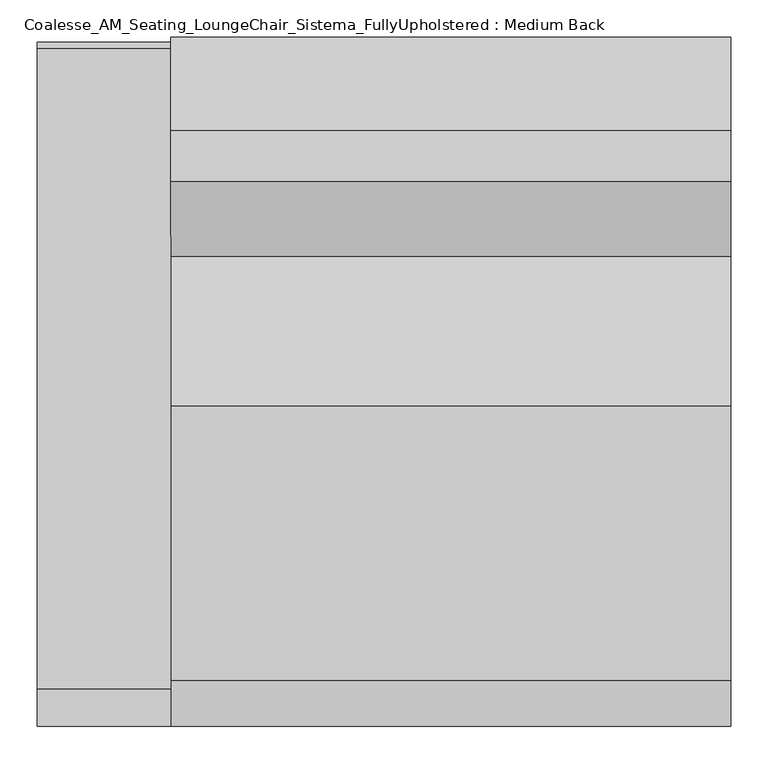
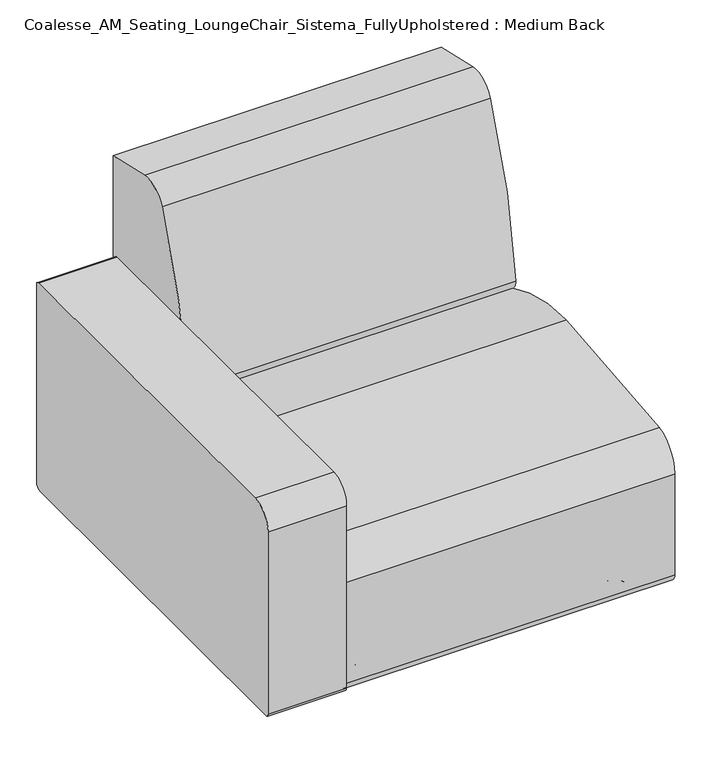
"""IFC4 building model written with IfcOpenShell, lengths in millimetres: furniture geometry, Coalesse_AM_Seating_LoungeChair_Sistema_FullyUpholstered : Medium Back."""

from ifc_helpers import new_model, si_unit, point, frame, frame_2d, origin, place, context, project, spatial, polyline, circle_curve, ellipse_curve, trimmed, segment, composite_curve, outline, extrude, source, transform, mapped, element, save
from ifc_brep_helpers import plane_surface, cylinder_surface, revolved_surface, advanced_brep


def coalesse_am_seating_loungechair_sistema_fullyupholstered_8c61c7ce(model_context):
    return source(origin(), model_context, "Body", "SolidModel", [
        advanced_brep(
        [(-437.0342435, 376.5697714, 32.0111214), (-473.307853, 376.5697714, 32.0111214), (-473.307853, 376.5697714, 16.5557542), (-437.0342435, 376.5697714, 16.5557542), (-474.6015336, 376.5697714, 14.0167632), (-435.740563, 376.5697714, 14.0167632), (-478.9735198, 376.5697714, 10.8824382), (-431.3685767, 376.5697714, 10.8824382), (-480.1597362, 376.5697714, 8.4680454), (-430.1823604, 376.5697714, 8.4680454), (-480.1597362, 376.5697714, 3.1081764), (-430.1823604, 376.5697714, 3.1081764), (-476.5633616, 376.5697714, 0.0), (-433.7787349, 376.5697714, 0.0), (-455.1710483, 376.5697714, 0.0), (-455.1710483, 376.5697714, 34.4679682), (-462.2858273, 376.5697714, 34.4679682), (-448.0562693, 376.5697714, 34.4679682), (-462.2858273, 376.5697714, 32.0111214), (-448.0562693, 376.5697714, 32.0111214)],
        [
            (0, 1, circle_curve(frame((-455.1710483, 376.5697714, 32.0111214), z_axis=(0.0, 0.0, -1.0), x_axis=(-1.0, 0.0, 0.0)), 18.1368048)),
            (1, 2),
            (2, 3, circle_curve(frame((-455.1710483, 376.5697714, 16.5557542), z_axis=(0.0, 0.0, 1.0), x_axis=(-1.0, 0.0, 0.0)), 18.1368048)),
            (3, 0),
            (1, 0, circle_curve(frame((-455.1710483, 376.5697714, 32.0111214), z_axis=(0.0, 0.0, -1.0), x_axis=(-1.0, 0.0, 0.0)), 18.1368048)),
            (3, 2, circle_curve(frame((-455.1710483, 376.5697714, 16.5557542), z_axis=(0.0, 0.0, 1.0), x_axis=(-1.0, 0.0, 0.0)), 18.1368048)),
            (2, 4),
            (4, 5, circle_curve(frame((-455.1710483, 376.5697714, 14.0167632), z_axis=(0.0, 0.0, 1.0), x_axis=(-1.0, 0.0, 0.0)), 19.4304853)),
            (5, 3),
            (5, 4, circle_curve(frame((-455.1710483, 376.5697714, 14.0167632), z_axis=(0.0, 0.0, 1.0), x_axis=(-1.0, 0.0, 0.0)), 19.4304853)),
            (4, 6, circle_curve(frame((-432.6195632, 376.5697714, -49.1591113), z_axis=(0.0, -1.0, 0.0), x_axis=(1.0, 0.0, 0.0)), 75.8529957)),
            (6, 7, circle_curve(frame((-455.1710483, 376.5697714, 10.8824382), z_axis=(0.0, 0.0, 1.0), x_axis=(-1.0, 0.0, 0.0)), 23.8024715)),
            (7, 5, circle_curve(frame((-477.7225333, 376.5697714, -49.1591113), z_axis=(0.0, -1.0, 0.0), x_axis=(-1.0, 0.0, 0.0)), 75.8529957)),
            (7, 6, circle_curve(frame((-455.1710483, 376.5697714, 10.8824382), z_axis=(0.0, 0.0, 1.0), x_axis=(-1.0, 0.0, 0.0)), 23.8024715)),
            (6, 8, circle_curve(frame((-477.109533, 376.5697714, 8.4680454), z_axis=(0.0, -1.0, 0.0), x_axis=(1.0, 0.0, 0.0)), 3.0502032)),
            (8, 9, circle_curve(frame((-455.1710483, 376.5697714, 8.4680454), z_axis=(0.0, 0.0, 1.0), x_axis=(-1.0, 0.0, 0.0)), 24.9886879)),
            (9, 7, circle_curve(frame((-433.2325636, 376.5697714, 8.4680454), z_axis=(0.0, -1.0, 0.0), x_axis=(-1.0, 0.0, 0.0)), 3.0502032)),
            (9, 8, circle_curve(frame((-455.1710483, 376.5697714, 8.4680454), z_axis=(0.0, 0.0, 1.0), x_axis=(-1.0, 0.0, 0.0)), 24.9886879)),
            (8, 10),
            (10, 11, circle_curve(frame((-455.1710483, 376.5697714, 3.1081764), z_axis=(0.0, 0.0, 1.0), x_axis=(-1.0, 0.0, 0.0)), 24.9886879)),
            (11, 9),
            (11, 10, circle_curve(frame((-455.1710483, 376.5697714, 3.1081764), z_axis=(0.0, 0.0, 1.0), x_axis=(-1.0, 0.0, 0.0)), 24.9886879)),
            (10, 12, circle_curve(frame((-476.5633616, 376.5697714, 3.634715), z_axis=(0.0, -1.0, 0.0), x_axis=(1.0, 0.0, 0.0)), 3.634715)),
            (12, 13, circle_curve(frame((-455.1710483, 376.5697714, 0.0), z_axis=(0.0, 0.0, 1.0), x_axis=(-1.0, 0.0, 0.0)), 21.3923133)),
            (13, 11, circle_curve(frame((-433.7787349, 376.5697714, 3.634715), z_axis=(0.0, -1.0, 0.0), x_axis=(-1.0, 0.0, 0.0)), 3.634715)),
            (13, 12, circle_curve(frame((-455.1710483, 376.5697714, 0.0), z_axis=(0.0, 0.0, 1.0), x_axis=(-1.0, 0.0, 0.0)), 21.3923133)),
            (12, 14),
            (14, 13),
            (15, 16),
            (16, 17, circle_curve(frame((-455.1710483, 376.5697714, 34.4679682), z_axis=(0.0, 0.0, 1.0), x_axis=(-1.0, 0.0, 0.0)), 7.114779)),
            (17, 15),
            (17, 16, circle_curve(frame((-455.1710483, 376.5697714, 34.4679682), z_axis=(0.0, 0.0, 1.0), x_axis=(-1.0, 0.0, 0.0)), 7.114779)),
            (16, 18),
            (18, 19, circle_curve(frame((-455.1710483, 376.5697714, 32.0111214), z_axis=(0.0, 0.0, 1.0), x_axis=(-1.0, 0.0, 0.0)), 7.114779)),
            (19, 17),
            (19, 18, circle_curve(frame((-455.1710483, 376.5697714, 32.0111214), z_axis=(0.0, 0.0, 1.0), x_axis=(-1.0, 0.0, 0.0)), 7.114779)),
            (18, 1),
            (0, 19),
        ],
        [
            cylinder_surface(frame((-455.1710483, 376.5697714, 22.0491407), z_axis=(0.0, 0.0, 1.0), x_axis=(-1.0, 0.0, 0.0)), 18.1368048),
            revolved_surface(polyline([(-474.6015336, 376.5697714, 14.0167632), (-473.307853, 376.5697714, 16.5557542)]), (-455.1710483, 376.5697714, 22.0491407), (0.0, 0.0, 1.0)),
            revolved_surface(trimmed(ellipse_curve(frame((-432.6195632, 376.5697714, -49.1591113), z_axis=(0.0, 1.0, 0.0), x_axis=(1.0, 0.0, 0.0)), 75.8529957, 75.8529957), [point((-478.9735198, 376.5697714, 10.8824382))], [point((-474.6015336, 376.5697714, 14.0167632))], True, "CARTESIAN"), (-455.1710483, 376.5697714, 22.0491407), (0.0, 0.0, 1.0)),
            revolved_surface(trimmed(ellipse_curve(frame((-477.109533, 376.5697714, 8.4680454), z_axis=(0.0, 1.0, 0.0), x_axis=(1.0, 0.0, 0.0)), 3.0502032, 3.0502032), [point((-480.1597362, 376.5697714, 8.4680454))], [point((-478.9735198, 376.5697714, 10.8824382))], True, "CARTESIAN"), (-455.1710483, 376.5697714, 22.0491407), (0.0, 0.0, 1.0)),
            cylinder_surface(frame((-455.1710483, 376.5697714, 22.0491407), z_axis=(0.0, 0.0, 1.0), x_axis=(-1.0, 0.0, 0.0)), 24.9886879),
            revolved_surface(trimmed(ellipse_curve(frame((-476.5633616, 376.5697714, 3.634715), z_axis=(0.0, 1.0, 0.0), x_axis=(1.0, 0.0, 0.0)), 3.634715, 3.634715), [point((-476.5633616, 376.5697714, 0.0))], [point((-480.1597362, 376.5697714, 3.1081764))], True, "CARTESIAN"), (-455.1710483, 376.5697714, 22.0491407), (0.0, 0.0, 1.0)),
            plane_surface(frame((-455.1710483, 376.5697714, 0.0), z_axis=(0.0, 0.0, -1.0), x_axis=(-1.0, 0.0, 0.0))),
            plane_surface(frame((-455.1710483, 376.5697714, 34.4679682), z_axis=(0.0, 0.0, 1.0), x_axis=(-1.0, 0.0, 0.0))),
            cylinder_surface(frame((-455.1710483, 376.5697714, 22.0491407), z_axis=(0.0, 0.0, 1.0), x_axis=(-1.0, 0.0, 0.0)), 7.114779),
            plane_surface(frame((-455.1710483, 376.5697714, 32.0111214), z_axis=(0.0, 0.0, 1.0), x_axis=(-1.0, 0.0, 0.0))),
        ],
        [
            (0, [[1, 2, 3, 4]]),
            (0, [[5, -4, 6, -2]]),
            (1, [[-3, 7, 8, 9]]),
            (1, [[-6, -9, 10, -7]]),
            (2, [[-8, 11, 12, 13]]),
            (2, [[-10, -13, 14, -11]]),
            (3, [[-12, 15, 16, 17]]),
            (3, [[-14, -17, 18, -15]]),
            (4, [[-16, 19, 20, 21]]),
            (4, [[-18, -21, 22, -19]]),
            (5, [[-20, 23, 24, 25]]),
            (5, [[-22, -25, 26, -23]]),
            (6, [[-24, 27, 28]]),
            (6, [[-26, -28, -27]]),
            (7, [[29, 30, 31]]),
            (7, [[-31, 32, -29]]),
            (8, [[-30, 33, 34, 35]]),
            (8, [[-32, -35, 36, -33]]),
            (9, [[-34, 37, -1, 38]]),
            (9, [[-36, -38, -5, -37]]),
        ],
    ),
        advanced_brep(
        [(-437.0342435, -359.8207817, 16.5557542), (-473.307853, -359.8207817, 16.5557542), (-473.307853, -359.8207817, 32.0111214), (-437.0342435, -359.8207817, 32.0111214), (-435.740563, -359.8207817, 14.0167632), (-474.6015336, -359.8207817, 14.0167632), (-431.3685767, -359.8207817, 10.8824382), (-478.9735198, -359.8207817, 10.8824382), (-430.1823604, -359.8207817, 8.4680454), (-480.1597362, -359.8207817, 8.4680454), (-430.1823604, -359.8207817, 3.1081764), (-480.1597362, -359.8207817, 3.1081764), (-433.7787349, -359.8207817, 0.0), (-476.5633616, -359.8207817, 0.0), (-455.1710483, -359.8207817, 0.0), (-448.0562693, -359.8207817, 34.4679682), (-462.2858273, -359.8207817, 34.4679682), (-455.1710483, -359.8207817, 34.4679682), (-448.0562693, -359.8207817, 32.0111214), (-462.2858273, -359.8207817, 32.0111214)],
        [
            (0, 1, circle_curve(frame((-455.1710483, -359.8207817, 16.5557542), z_axis=(0.0, 0.0, 1.0), x_axis=(-1.0, 0.0, 0.0)), 18.1368048)),
            (1, 2),
            (2, 3, circle_curve(frame((-455.1710483, -359.8207817, 32.0111214), z_axis=(0.0, 0.0, -1.0), x_axis=(-1.0, 0.0, 0.0)), 18.1368048)),
            (3, 0),
            (1, 0, circle_curve(frame((-455.1710483, -359.8207817, 16.5557542), z_axis=(0.0, 0.0, 1.0), x_axis=(-1.0, 0.0, 0.0)), 18.1368048)),
            (3, 2, circle_curve(frame((-455.1710483, -359.8207817, 32.0111214), z_axis=(0.0, 0.0, -1.0), x_axis=(-1.0, 0.0, 0.0)), 18.1368048)),
            (4, 5, circle_curve(frame((-455.1710483, -359.8207817, 14.0167632), z_axis=(0.0, 0.0, 1.0), x_axis=(-1.0, 0.0, 0.0)), 19.4304853)),
            (5, 1),
            (0, 4),
            (5, 4, circle_curve(frame((-455.1710483, -359.8207817, 14.0167632), z_axis=(0.0, 0.0, 1.0), x_axis=(-1.0, 0.0, 0.0)), 19.4304853)),
            (6, 7, circle_curve(frame((-455.1710483, -359.8207817, 10.8824382), z_axis=(0.0, 0.0, 1.0), x_axis=(-1.0, 0.0, 0.0)), 23.8024715)),
            (7, 5, circle_curve(frame((-432.6195632, -359.8207817, -49.1591113), z_axis=(0.0, 1.0, 0.0), x_axis=(1.0, 0.0, 0.0)), 75.8529957)),
            (4, 6, circle_curve(frame((-477.7225333, -359.8207817, -49.1591113), z_axis=(0.0, 1.0, 0.0), x_axis=(-1.0, 0.0, 0.0)), 75.8529957)),
            (7, 6, circle_curve(frame((-455.1710483, -359.8207817, 10.8824382), z_axis=(0.0, 0.0, 1.0), x_axis=(-1.0, 0.0, 0.0)), 23.8024715)),
            (8, 9, circle_curve(frame((-455.1710483, -359.8207817, 8.4680454), z_axis=(0.0, 0.0, 1.0), x_axis=(-1.0, 0.0, 0.0)), 24.9886879)),
            (9, 7, circle_curve(frame((-477.109533, -359.8207817, 8.4680454), z_axis=(0.0, 1.0, 0.0), x_axis=(1.0, 0.0, 0.0)), 3.0502032)),
            (6, 8, circle_curve(frame((-433.2325636, -359.8207817, 8.4680454), z_axis=(0.0, 1.0, 0.0), x_axis=(-1.0, 0.0, 0.0)), 3.0502032)),
            (9, 8, circle_curve(frame((-455.1710483, -359.8207817, 8.4680454), z_axis=(0.0, 0.0, 1.0), x_axis=(-1.0, 0.0, 0.0)), 24.9886879)),
            (10, 11, circle_curve(frame((-455.1710483, -359.8207817, 3.1081764), z_axis=(0.0, 0.0, 1.0), x_axis=(-1.0, 0.0, 0.0)), 24.9886879)),
            (11, 9),
            (8, 10),
            (11, 10, circle_curve(frame((-455.1710483, -359.8207817, 3.1081764), z_axis=(0.0, 0.0, 1.0), x_axis=(-1.0, 0.0, 0.0)), 24.9886879)),
            (12, 13, circle_curve(frame((-455.1710483, -359.8207817, 0.0), z_axis=(0.0, 0.0, 1.0), x_axis=(-1.0, 0.0, 0.0)), 21.3923133)),
            (13, 11, circle_curve(frame((-476.5633616, -359.8207817, 3.634715), z_axis=(0.0, 1.0, 0.0), x_axis=(1.0, 0.0, 0.0)), 3.634715)),
            (10, 12, circle_curve(frame((-433.7787349, -359.8207817, 3.634715), z_axis=(0.0, 1.0, 0.0), x_axis=(-1.0, 0.0, 0.0)), 3.634715)),
            (13, 12, circle_curve(frame((-455.1710483, -359.8207817, 0.0), z_axis=(0.0, 0.0, 1.0), x_axis=(-1.0, 0.0, 0.0)), 21.3923133)),
            (14, 13),
            (12, 14),
            (15, 16, circle_curve(frame((-455.1710483, -359.8207817, 34.4679682), z_axis=(0.0, 0.0, 1.0), x_axis=(-1.0, 0.0, 0.0)), 7.114779)),
            (16, 17),
            (17, 15),
            (16, 15, circle_curve(frame((-455.1710483, -359.8207817, 34.4679682), z_axis=(0.0, 0.0, 1.0), x_axis=(-1.0, 0.0, 0.0)), 7.114779)),
            (18, 19, circle_curve(frame((-455.1710483, -359.8207817, 32.0111214), z_axis=(0.0, 0.0, 1.0), x_axis=(-1.0, 0.0, 0.0)), 7.114779)),
            (19, 16),
            (15, 18),
            (19, 18, circle_curve(frame((-455.1710483, -359.8207817, 32.0111214), z_axis=(0.0, 0.0, 1.0), x_axis=(-1.0, 0.0, 0.0)), 7.114779)),
            (2, 19),
            (18, 3),
        ],
        [
            cylinder_surface(frame((-455.1710483, -359.8207817, 22.0491407), z_axis=(0.0, 0.0, -1.0), x_axis=(-1.0, 0.0, 0.0)), 18.1368048),
            revolved_surface(polyline([(-473.307853, -359.8207817, 16.5557542), (-474.6015336, -359.8207817, 14.0167632)]), (-455.1710483, -359.8207817, 22.0491407), (0.0, 0.0, -1.0)),
            revolved_surface(trimmed(ellipse_curve(frame((-432.6195632, -359.8207817, -49.1591113), z_axis=(0.0, -1.0, 0.0), x_axis=(1.0, 0.0, 0.0)), 75.8529957, 75.8529957), [point((-474.6015336, -359.8207817, 14.0167632))], [point((-478.9735198, -359.8207817, 10.8824382))], True, "CARTESIAN"), (-455.1710483, -359.8207817, 22.0491407), (0.0, 0.0, -1.0)),
            revolved_surface(trimmed(ellipse_curve(frame((-477.109533, -359.8207817, 8.4680454), z_axis=(0.0, -1.0, 0.0), x_axis=(1.0, 0.0, 0.0)), 3.0502032, 3.0502032), [point((-478.9735198, -359.8207817, 10.8824382))], [point((-480.1597362, -359.8207817, 8.4680454))], True, "CARTESIAN"), (-455.1710483, -359.8207817, 22.0491407), (0.0, 0.0, -1.0)),
            cylinder_surface(frame((-455.1710483, -359.8207817, 22.0491407), z_axis=(0.0, 0.0, -1.0), x_axis=(-1.0, 0.0, 0.0)), 24.9886879),
            revolved_surface(trimmed(ellipse_curve(frame((-476.5633616, -359.8207817, 3.634715), z_axis=(0.0, -1.0, 0.0), x_axis=(1.0, 0.0, 0.0)), 3.634715, 3.634715), [point((-480.1597362, -359.8207817, 3.1081764))], [point((-476.5633616, -359.8207817, 0.0))], True, "CARTESIAN"), (-455.1710483, -359.8207817, 22.0491407), (0.0, 0.0, -1.0)),
            plane_surface(frame((-455.1710483, -359.8207817, 0.0), z_axis=(0.0, 0.0, -1.0), x_axis=(-1.0, 0.0, 0.0))),
            plane_surface(frame((-455.1710483, -359.8207817, 34.4679682), z_axis=(0.0, 0.0, 1.0), x_axis=(-1.0, 0.0, 0.0))),
            cylinder_surface(frame((-455.1710483, -359.8207817, 22.0491407), z_axis=(0.0, 0.0, -1.0), x_axis=(-1.0, 0.0, 0.0)), 7.114779),
            plane_surface(frame((-455.1710483, -359.8207817, 32.0111214), z_axis=(0.0, 0.0, 1.0), x_axis=(-1.0, 0.0, 0.0))),
        ],
        [
            (0, [[1, 2, 3, 4]]),
            (0, [[5, -4, 6, -2]]),
            (1, [[7, 8, -1, 9]]),
            (1, [[10, -9, -5, -8]]),
            (2, [[11, 12, -7, 13]]),
            (2, [[14, -13, -10, -12]]),
            (3, [[15, 16, -11, 17]]),
            (3, [[18, -17, -14, -16]]),
            (4, [[19, 20, -15, 21]]),
            (4, [[22, -21, -18, -20]]),
            (5, [[23, 24, -19, 25]]),
            (5, [[26, -25, -22, -24]]),
            (6, [[27, -23, 28]]),
            (6, [[-28, -26, -27]]),
            (7, [[29, 30, 31]]),
            (7, [[32, -31, -30]]),
            (8, [[33, 34, -29, 35]]),
            (8, [[36, -35, -32, -34]]),
            (9, [[-3, 37, -33, 38]]),
            (9, [[-6, -38, -36, -37]]),
        ],
    ),
        extrude(outline(composite_curve([segment(polyline([(-461.2704381, 44.1353341), (-461.2704381, 487.0244726)]), True, "CONTINUOUS"), segment(trimmed(circle_curve(frame_2d((-410.4704381, 487.0244726)), 50.8), [point((-461.2704381, 487.0244726))], [point((-410.4704381, 537.8244726))], False, "CARTESIAN"), True, "CONTINUOUS"), segment(polyline([(-410.4704381, 537.8244726), (450.1139321, 537.8244726)]), True, "CONTINUOUS"), segment(trimmed(circle_curve(frame_2d((450.1139321, 530.2044726)), 7.62), [point((450.1139321, 537.8244726))], [point((457.7339321, 530.2044726))], False, "CARTESIAN"), True, "CONTINUOUS"), segment(polyline([(457.7339321, 530.2044726), (457.7339321, 49.2153341)]), True, "CONTINUOUS"), segment(trimmed(circle_curve(frame_2d((445.0339321, 49.2153341)), 12.7), [point((457.7339321, 49.2153341))], [point((445.0339321, 36.5153341))], False, "CARTESIAN"), True, "CONTINUOUS"), segment(polyline([(445.0339321, 36.5153341), (-453.6504381, 36.5153341)]), True, "CONTINUOUS"), segment(trimmed(circle_curve(frame_2d((-453.6504381, 44.1353341)), 7.62), [point((-453.6504381, 36.5153341))], [point((-461.2704381, 44.1353341))], False, "CARTESIAN"), True, "CONTINUOUS")], self_intersect=False)), frame((-554.3698424, 0.0, 0.0), z_axis=(1.0, 0.0, 0.0), x_axis=(0.0, 1.0, 0.0)), (0.0, 0.0, 1.0), 179.5663651),
        extrude(outline(composite_curve([segment(polyline([(-461.2704381, 44.1353341), (-461.2704381, 487.0244726)]), True, "CONTINUOUS"), segment(trimmed(circle_curve(frame_2d((-410.4704381, 487.0244726)), 50.8), [point((-461.2704381, 487.0244726))], [point((-410.4704381, 537.8244726))], False, "CARTESIAN"), True, "CONTINUOUS"), segment(polyline([(-410.4704381, 537.8244726), (450.1139321, 537.8244726)]), True, "CONTINUOUS"), segment(trimmed(circle_curve(frame_2d((450.1139321, 530.2044726)), 7.62), [point((450.1139321, 537.8244726))], [point((457.7339321, 530.2044726))], False, "CARTESIAN"), True, "CONTINUOUS"), segment(polyline([(457.7339321, 530.2044726), (457.7339321, 49.2153341)]), True, "CONTINUOUS"), segment(trimmed(circle_curve(frame_2d((445.0339321, 49.2153341)), 12.7), [point((457.7339321, 49.2153341))], [point((445.0339321, 36.5153341))], False, "CARTESIAN"), True, "CONTINUOUS"), segment(polyline([(445.0339321, 36.5153341), (-453.6504381, 36.5153341)]), True, "CONTINUOUS"), segment(trimmed(circle_curve(frame_2d((-453.6504381, 44.1353341)), 7.62), [point((-453.6504381, 36.5153341))], [point((-461.2704381, 44.1353341))], False, "CARTESIAN"), True, "CONTINUOUS")], self_intersect=False)), frame((-554.3698424, 0.0, 0.0), z_axis=(1.0, 0.0, 0.0), x_axis=(0.0, 1.0, 0.0)), (0.0, 0.0, 1.0), 179.5663651),
        advanced_brep(
        [(-269.1276038, 379.5141881, 32.0111214), (-305.4012134, 379.5141881, 32.0111214), (-305.4012134, 379.5141881, 16.5557542), (-269.1276038, 379.5141881, 16.5557542), (-306.6948939, 379.5141881, 14.0167632), (-267.8339233, 379.5141881, 14.0167632), (-311.0668802, 379.5141881, 10.8824382), (-263.4619371, 379.5141881, 10.8824382), (-312.2530965, 379.5141881, 8.4680454), (-262.2757207, 379.5141881, 8.4680454), (-312.2530965, 379.5141881, 3.1081764), (-262.2757207, 379.5141881, 3.1081764), (-308.6567219, 379.5141881, 0.0), (-265.8720953, 379.5141881, 0.0), (-287.2644086, 379.5141881, 0.0), (-287.2644086, 379.5141881, 34.4679682), (-294.3791876, 379.5141881, 34.4679682), (-280.1496296, 379.5141881, 34.4679682), (-294.3791876, 379.5141881, 32.0111214), (-280.1496296, 379.5141881, 32.0111214)],
        [
            (0, 1, circle_curve(frame((-287.2644086, 379.5141881, 32.0111214), z_axis=(0.0, 0.0, -1.0), x_axis=(-1.0, 0.0, 0.0)), 18.1368048)),
            (1, 2),
            (2, 3, circle_curve(frame((-287.2644086, 379.5141881, 16.5557542), z_axis=(0.0, 0.0, 1.0), x_axis=(-1.0, 0.0, 0.0)), 18.1368048)),
            (3, 0),
            (1, 0, circle_curve(frame((-287.2644086, 379.5141881, 32.0111214), z_axis=(0.0, 0.0, -1.0), x_axis=(-1.0, 0.0, 0.0)), 18.1368048)),
            (3, 2, circle_curve(frame((-287.2644086, 379.5141881, 16.5557542), z_axis=(0.0, 0.0, 1.0), x_axis=(-1.0, 0.0, 0.0)), 18.1368048)),
            (2, 4),
            (4, 5, circle_curve(frame((-287.2644086, 379.5141881, 14.0167632), z_axis=(0.0, 0.0, 1.0), x_axis=(-1.0, 0.0, 0.0)), 19.4304853)),
            (5, 3),
            (5, 4, circle_curve(frame((-287.2644086, 379.5141881, 14.0167632), z_axis=(0.0, 0.0, 1.0), x_axis=(-1.0, 0.0, 0.0)), 19.4304853)),
            (4, 6, circle_curve(frame((-264.7129236, 379.5141881, -49.1591113), z_axis=(0.0, -1.0, 0.0), x_axis=(1.0, 0.0, 0.0)), 75.8529957)),
            (6, 7, circle_curve(frame((-287.2644086, 379.5141881, 10.8824382), z_axis=(0.0, 0.0, 1.0), x_axis=(-1.0, 0.0, 0.0)), 23.8024715)),
            (7, 5, circle_curve(frame((-309.8158936, 379.5141881, -49.1591113), z_axis=(0.0, -1.0, 0.0), x_axis=(-1.0, 0.0, 0.0)), 75.8529957)),
            (7, 6, circle_curve(frame((-287.2644086, 379.5141881, 10.8824382), z_axis=(0.0, 0.0, 1.0), x_axis=(-1.0, 0.0, 0.0)), 23.8024715)),
            (6, 8, circle_curve(frame((-309.2028933, 379.5141881, 8.4680454), z_axis=(0.0, -1.0, 0.0), x_axis=(1.0, 0.0, 0.0)), 3.0502032)),
            (8, 9, circle_curve(frame((-287.2644086, 379.5141881, 8.4680454), z_axis=(0.0, 0.0, 1.0), x_axis=(-1.0, 0.0, 0.0)), 24.9886879)),
            (9, 7, circle_curve(frame((-265.3259239, 379.5141881, 8.4680454), z_axis=(0.0, -1.0, 0.0), x_axis=(-1.0, 0.0, 0.0)), 3.0502032)),
            (9, 8, circle_curve(frame((-287.2644086, 379.5141881, 8.4680454), z_axis=(0.0, 0.0, 1.0), x_axis=(-1.0, 0.0, 0.0)), 24.9886879)),
            (8, 10),
            (10, 11, circle_curve(frame((-287.2644086, 379.5141881, 3.1081764), z_axis=(0.0, 0.0, 1.0), x_axis=(-1.0, 0.0, 0.0)), 24.9886879)),
            (11, 9),
            (11, 10, circle_curve(frame((-287.2644086, 379.5141881, 3.1081764), z_axis=(0.0, 0.0, 1.0), x_axis=(-1.0, 0.0, 0.0)), 24.9886879)),
            (10, 12, circle_curve(frame((-308.6567219, 379.5141881, 3.634715), z_axis=(0.0, -1.0, 0.0), x_axis=(1.0, 0.0, 0.0)), 3.634715)),
            (12, 13, circle_curve(frame((-287.2644086, 379.5141881, 0.0), z_axis=(0.0, 0.0, 1.0), x_axis=(-1.0, 0.0, 0.0)), 21.3923133)),
            (13, 11, circle_curve(frame((-265.8720953, 379.5141881, 3.634715), z_axis=(0.0, -1.0, 0.0), x_axis=(-1.0, 0.0, 0.0)), 3.634715)),
            (13, 12, circle_curve(frame((-287.2644086, 379.5141881, 0.0), z_axis=(0.0, 0.0, 1.0), x_axis=(-1.0, 0.0, 0.0)), 21.3923133)),
            (12, 14),
            (14, 13),
            (15, 16),
            (16, 17, circle_curve(frame((-287.2644086, 379.5141881, 34.4679682), z_axis=(0.0, 0.0, 1.0), x_axis=(-1.0, 0.0, 0.0)), 7.114779)),
            (17, 15),
            (17, 16, circle_curve(frame((-287.2644086, 379.5141881, 34.4679682), z_axis=(0.0, 0.0, 1.0), x_axis=(-1.0, 0.0, 0.0)), 7.114779)),
            (16, 18),
            (18, 19, circle_curve(frame((-287.2644086, 379.5141881, 32.0111214), z_axis=(0.0, 0.0, 1.0), x_axis=(-1.0, 0.0, 0.0)), 7.114779)),
            (19, 17),
            (19, 18, circle_curve(frame((-287.2644086, 379.5141881, 32.0111214), z_axis=(0.0, 0.0, 1.0), x_axis=(-1.0, 0.0, 0.0)), 7.114779)),
            (18, 1),
            (0, 19),
        ],
        [
            cylinder_surface(frame((-287.2644086, 379.5141881, 22.0491407), z_axis=(0.0, 0.0, 1.0), x_axis=(-1.0, 0.0, 0.0)), 18.1368048),
            revolved_surface(polyline([(-306.6948939, 379.5141881, 14.0167632), (-305.4012134, 379.5141881, 16.5557542)]), (-287.2644086, 379.5141881, 22.0491407), (0.0, 0.0, 1.0)),
            revolved_surface(trimmed(ellipse_curve(frame((-264.7129236, 379.5141881, -49.1591113), z_axis=(0.0, 1.0, 0.0), x_axis=(1.0, 0.0, 0.0)), 75.8529957, 75.8529957), [point((-311.0668802, 379.5141881, 10.8824382))], [point((-306.6948939, 379.5141881, 14.0167632))], True, "CARTESIAN"), (-287.2644086, 379.5141881, 22.0491407), (0.0, 0.0, 1.0)),
            revolved_surface(trimmed(ellipse_curve(frame((-309.2028933, 379.5141881, 8.4680454), z_axis=(0.0, 1.0, 0.0), x_axis=(1.0, 0.0, 0.0)), 3.0502032, 3.0502032), [point((-312.2530965, 379.5141881, 8.4680454))], [point((-311.0668802, 379.5141881, 10.8824382))], True, "CARTESIAN"), (-287.2644086, 379.5141881, 22.0491407), (0.0, 0.0, 1.0)),
            cylinder_surface(frame((-287.2644086, 379.5141881, 22.0491407), z_axis=(0.0, 0.0, 1.0), x_axis=(-1.0, 0.0, 0.0)), 24.9886879),
            revolved_surface(trimmed(ellipse_curve(frame((-308.6567219, 379.5141881, 3.634715), z_axis=(0.0, 1.0, 0.0), x_axis=(1.0, 0.0, 0.0)), 3.634715, 3.634715), [point((-308.6567219, 379.5141881, 0.0))], [point((-312.2530965, 379.5141881, 3.1081764))], True, "CARTESIAN"), (-287.2644086, 379.5141881, 22.0491407), (0.0, 0.0, 1.0)),
            plane_surface(frame((-287.2644086, 379.5141881, 0.0), z_axis=(0.0, 0.0, -1.0), x_axis=(-1.0, 0.0, 0.0))),
            plane_surface(frame((-287.2644086, 379.5141881, 34.4679682), z_axis=(0.0, 0.0, 1.0), x_axis=(-1.0, 0.0, 0.0))),
            cylinder_surface(frame((-287.2644086, 379.5141881, 22.0491407), z_axis=(0.0, 0.0, 1.0), x_axis=(-1.0, 0.0, 0.0)), 7.114779),
            plane_surface(frame((-287.2644086, 379.5141881, 32.0111214), z_axis=(0.0, 0.0, 1.0), x_axis=(-1.0, 0.0, 0.0))),
        ],
        [
            (0, [[1, 2, 3, 4]]),
            (0, [[5, -4, 6, -2]]),
            (1, [[-3, 7, 8, 9]]),
            (1, [[-6, -9, 10, -7]]),
            (2, [[-8, 11, 12, 13]]),
            (2, [[-10, -13, 14, -11]]),
            (3, [[-12, 15, 16, 17]]),
            (3, [[-14, -17, 18, -15]]),
            (4, [[-16, 19, 20, 21]]),
            (4, [[-18, -21, 22, -19]]),
            (5, [[-20, 23, 24, 25]]),
            (5, [[-22, -25, 26, -23]]),
            (6, [[-24, 27, 28]]),
            (6, [[-26, -28, -27]]),
            (7, [[29, 30, 31]]),
            (7, [[-31, 32, -29]]),
            (8, [[-30, 33, 34, 35]]),
            (8, [[-32, -35, 36, -33]]),
            (9, [[-34, 37, -1, 38]]),
            (9, [[-36, -38, -5, -37]]),
        ],
    ),
        advanced_brep(
        [(269.1276038, 379.5141881, 16.5557542), (305.4012134, 379.5141881, 16.5557542), (305.4012134, 379.5141881, 32.0111214), (269.1276038, 379.5141881, 32.0111214), (267.8339233, 379.5141881, 14.0167632), (306.6948939, 379.5141881, 14.0167632), (263.4619371, 379.5141881, 10.8824382), (311.0668802, 379.5141881, 10.8824382), (262.2757207, 379.5141881, 8.4680454), (312.2530965, 379.5141881, 8.4680454), (262.2757207, 379.5141881, 3.1081764), (312.2530965, 379.5141881, 3.1081764), (265.8720953, 379.5141881, 0.0), (308.6567219, 379.5141881, 0.0), (287.2644086, 379.5141881, 0.0), (280.1496296, 379.5141881, 34.4679682), (294.3791876, 379.5141881, 34.4679682), (287.2644086, 379.5141881, 34.4679682), (280.1496296, 379.5141881, 32.0111214), (294.3791876, 379.5141881, 32.0111214)],
        [
            (0, 1, circle_curve(frame((287.2644086, 379.5141881, 16.5557542), z_axis=(0.0, 0.0, 1.0), x_axis=(1.0, 0.0, 0.0)), 18.1368048)),
            (1, 2),
            (2, 3, circle_curve(frame((287.2644086, 379.5141881, 32.0111214), z_axis=(0.0, 0.0, -1.0), x_axis=(1.0, 0.0, 0.0)), 18.1368048)),
            (3, 0),
            (1, 0, circle_curve(frame((287.2644086, 379.5141881, 16.5557542), z_axis=(0.0, 0.0, 1.0), x_axis=(1.0, 0.0, 0.0)), 18.1368048)),
            (3, 2, circle_curve(frame((287.2644086, 379.5141881, 32.0111214), z_axis=(0.0, 0.0, -1.0), x_axis=(1.0, 0.0, 0.0)), 18.1368048)),
            (4, 5, circle_curve(frame((287.2644086, 379.5141881, 14.0167632), z_axis=(0.0, 0.0, 1.0), x_axis=(1.0, 0.0, 0.0)), 19.4304853)),
            (5, 1),
            (0, 4),
            (5, 4, circle_curve(frame((287.2644086, 379.5141881, 14.0167632), z_axis=(0.0, 0.0, 1.0), x_axis=(1.0, 0.0, 0.0)), 19.4304853)),
            (6, 7, circle_curve(frame((287.2644086, 379.5141881, 10.8824382), z_axis=(0.0, 0.0, 1.0), x_axis=(1.0, 0.0, 0.0)), 23.8024715)),
            (7, 5, circle_curve(frame((264.7129236, 379.5141881, -49.1591113), z_axis=(0.0, -1.0, 0.0), x_axis=(-1.0, 0.0, 0.0)), 75.8529957)),
            (4, 6, circle_curve(frame((309.8158936, 379.5141881, -49.1591113), z_axis=(0.0, -1.0, 0.0), x_axis=(1.0, 0.0, 0.0)), 75.8529957)),
            (7, 6, circle_curve(frame((287.2644086, 379.5141881, 10.8824382), z_axis=(0.0, 0.0, 1.0), x_axis=(1.0, 0.0, 0.0)), 23.8024715)),
            (8, 9, circle_curve(frame((287.2644086, 379.5141881, 8.4680454), z_axis=(0.0, 0.0, 1.0), x_axis=(1.0, 0.0, 0.0)), 24.9886879)),
            (9, 7, circle_curve(frame((309.2028933, 379.5141881, 8.4680454), z_axis=(0.0, -1.0, 0.0), x_axis=(-1.0, 0.0, 0.0)), 3.0502032)),
            (6, 8, circle_curve(frame((265.3259239, 379.5141881, 8.4680454), z_axis=(0.0, -1.0, 0.0), x_axis=(1.0, 0.0, 0.0)), 3.0502032)),
            (9, 8, circle_curve(frame((287.2644086, 379.5141881, 8.4680454), z_axis=(0.0, 0.0, 1.0), x_axis=(1.0, 0.0, 0.0)), 24.9886879)),
            (10, 11, circle_curve(frame((287.2644086, 379.5141881, 3.1081764), z_axis=(0.0, 0.0, 1.0), x_axis=(1.0, 0.0, 0.0)), 24.9886879)),
            (11, 9),
            (8, 10),
            (11, 10, circle_curve(frame((287.2644086, 379.5141881, 3.1081764), z_axis=(0.0, 0.0, 1.0), x_axis=(1.0, 0.0, 0.0)), 24.9886879)),
            (12, 13, circle_curve(frame((287.2644086, 379.5141881, 0.0), z_axis=(0.0, 0.0, 1.0), x_axis=(1.0, 0.0, 0.0)), 21.3923133)),
            (13, 11, circle_curve(frame((308.6567219, 379.5141881, 3.634715), z_axis=(0.0, -1.0, 0.0), x_axis=(-1.0, 0.0, 0.0)), 3.634715)),
            (10, 12, circle_curve(frame((265.8720953, 379.5141881, 3.634715), z_axis=(0.0, -1.0, 0.0), x_axis=(1.0, 0.0, 0.0)), 3.634715)),
            (13, 12, circle_curve(frame((287.2644086, 379.5141881, 0.0), z_axis=(0.0, 0.0, 1.0), x_axis=(1.0, 0.0, 0.0)), 21.3923133)),
            (14, 13),
            (12, 14),
            (15, 16, circle_curve(frame((287.2644086, 379.5141881, 34.4679682), z_axis=(0.0, 0.0, 1.0), x_axis=(1.0, 0.0, 0.0)), 7.114779)),
            (16, 17),
            (17, 15),
            (16, 15, circle_curve(frame((287.2644086, 379.5141881, 34.4679682), z_axis=(0.0, 0.0, 1.0), x_axis=(1.0, 0.0, 0.0)), 7.114779)),
            (18, 19, circle_curve(frame((287.2644086, 379.5141881, 32.0111214), z_axis=(0.0, 0.0, 1.0), x_axis=(1.0, 0.0, 0.0)), 7.114779)),
            (19, 16),
            (15, 18),
            (19, 18, circle_curve(frame((287.2644086, 379.5141881, 32.0111214), z_axis=(0.0, 0.0, 1.0), x_axis=(1.0, 0.0, 0.0)), 7.114779)),
            (2, 19),
            (18, 3),
        ],
        [
            cylinder_surface(frame((287.2644086, 379.5141881, 22.0491407), z_axis=(0.0, 0.0, -1.0), x_axis=(1.0, 0.0, 0.0)), 18.1368048),
            revolved_surface(polyline([(305.4012134, 379.5141881, 16.5557542), (306.6948939, 379.5141881, 14.0167632)]), (287.2644086, 379.5141881, 22.0491407), (0.0, 0.0, -1.0)),
            revolved_surface(trimmed(ellipse_curve(frame((264.7129236, 379.5141881, -49.1591113), z_axis=(0.0, 1.0, 0.0), x_axis=(-1.0, 0.0, 0.0)), 75.8529957, 75.8529957), [point((306.6948939, 379.5141881, 14.0167632))], [point((311.0668802, 379.5141881, 10.8824382))], True, "CARTESIAN"), (287.2644086, 379.5141881, 22.0491407), (0.0, 0.0, -1.0)),
            revolved_surface(trimmed(ellipse_curve(frame((309.2028933, 379.5141881, 8.4680454), z_axis=(0.0, 1.0, 0.0), x_axis=(-1.0, 0.0, 0.0)), 3.0502032, 3.0502032), [point((311.0668802, 379.5141881, 10.8824382))], [point((312.2530965, 379.5141881, 8.4680454))], True, "CARTESIAN"), (287.2644086, 379.5141881, 22.0491407), (0.0, 0.0, -1.0)),
            cylinder_surface(frame((287.2644086, 379.5141881, 22.0491407), z_axis=(0.0, 0.0, -1.0), x_axis=(1.0, 0.0, 0.0)), 24.9886879),
            revolved_surface(trimmed(ellipse_curve(frame((308.6567219, 379.5141881, 3.634715), z_axis=(0.0, 1.0, 0.0), x_axis=(-1.0, 0.0, 0.0)), 3.634715, 3.634715), [point((312.2530965, 379.5141881, 3.1081764))], [point((308.6567219, 379.5141881, 0.0))], True, "CARTESIAN"), (287.2644086, 379.5141881, 22.0491407), (0.0, 0.0, -1.0)),
            plane_surface(frame((287.2644086, 379.5141881, 0.0), z_axis=(0.0, 0.0, -1.0), x_axis=(1.0, 0.0, 0.0))),
            plane_surface(frame((287.2644086, 379.5141881, 34.4679682), z_axis=(0.0, 0.0, 1.0), x_axis=(1.0, 0.0, 0.0))),
            cylinder_surface(frame((287.2644086, 379.5141881, 22.0491407), z_axis=(0.0, 0.0, -1.0), x_axis=(1.0, 0.0, 0.0)), 7.114779),
            plane_surface(frame((287.2644086, 379.5141881, 32.0111214), z_axis=(0.0, 0.0, 1.0), x_axis=(1.0, 0.0, 0.0))),
        ],
        [
            (0, [[1, 2, 3, 4]]),
            (0, [[5, -4, 6, -2]]),
            (1, [[7, 8, -1, 9]]),
            (1, [[10, -9, -5, -8]]),
            (2, [[11, 12, -7, 13]]),
            (2, [[14, -13, -10, -12]]),
            (3, [[15, 16, -11, 17]]),
            (3, [[18, -17, -14, -16]]),
            (4, [[19, 20, -15, 21]]),
            (4, [[22, -21, -18, -20]]),
            (5, [[23, 24, -19, 25]]),
            (5, [[26, -25, -22, -24]]),
            (6, [[27, -23, 28]]),
            (6, [[-28, -26, -27]]),
            (7, [[29, 30, 31]]),
            (7, [[32, -31, -30]]),
            (8, [[33, 34, -29, 35]]),
            (8, [[36, -35, -32, -34]]),
            (9, [[-3, 37, -33, 38]]),
            (9, [[-6, -38, -36, -37]]),
        ],
    ),
        advanced_brep(
        [(269.1276038, -379.5141881, 32.0111214), (305.4012134, -379.5141881, 32.0111214), (305.4012134, -379.5141881, 16.5557542), (269.1276038, -379.5141881, 16.5557542), (306.6948939, -379.5141881, 14.0167632), (267.8339233, -379.5141881, 14.0167632), (311.0668802, -379.5141881, 10.8824382), (263.4619371, -379.5141881, 10.8824382), (312.2530965, -379.5141881, 8.4680454), (262.2757207, -379.5141881, 8.4680454), (312.2530965, -379.5141881, 3.1081764), (262.2757207, -379.5141881, 3.1081764), (308.6567219, -379.5141881, 0.0), (265.8720953, -379.5141881, 0.0), (287.2644086, -379.5141881, 0.0), (287.2644086, -379.5141881, 34.4679682), (294.3791876, -379.5141881, 34.4679682), (280.1496296, -379.5141881, 34.4679682), (294.3791876, -379.5141881, 32.0111214), (280.1496296, -379.5141881, 32.0111214)],
        [
            (0, 1, circle_curve(frame((287.2644086, -379.5141881, 32.0111214), z_axis=(0.0, 0.0, -1.0), x_axis=(1.0, 0.0, 0.0)), 18.1368048)),
            (1, 2),
            (2, 3, circle_curve(frame((287.2644086, -379.5141881, 16.5557542), z_axis=(0.0, 0.0, 1.0), x_axis=(1.0, 0.0, 0.0)), 18.1368048)),
            (3, 0),
            (1, 0, circle_curve(frame((287.2644086, -379.5141881, 32.0111214), z_axis=(0.0, 0.0, -1.0), x_axis=(1.0, 0.0, 0.0)), 18.1368048)),
            (3, 2, circle_curve(frame((287.2644086, -379.5141881, 16.5557542), z_axis=(0.0, 0.0, 1.0), x_axis=(1.0, 0.0, 0.0)), 18.1368048)),
            (2, 4),
            (4, 5, circle_curve(frame((287.2644086, -379.5141881, 14.0167632), z_axis=(0.0, 0.0, 1.0), x_axis=(1.0, 0.0, 0.0)), 19.4304853)),
            (5, 3),
            (5, 4, circle_curve(frame((287.2644086, -379.5141881, 14.0167632), z_axis=(0.0, 0.0, 1.0), x_axis=(1.0, 0.0, 0.0)), 19.4304853)),
            (4, 6, circle_curve(frame((264.7129236, -379.5141881, -49.1591113), z_axis=(0.0, 1.0, 0.0), x_axis=(-1.0, 0.0, 0.0)), 75.8529957)),
            (6, 7, circle_curve(frame((287.2644086, -379.5141881, 10.8824382), z_axis=(0.0, 0.0, 1.0), x_axis=(1.0, 0.0, 0.0)), 23.8024715)),
            (7, 5, circle_curve(frame((309.8158936, -379.5141881, -49.1591113), z_axis=(0.0, 1.0, 0.0), x_axis=(1.0, 0.0, 0.0)), 75.8529957)),
            (7, 6, circle_curve(frame((287.2644086, -379.5141881, 10.8824382), z_axis=(0.0, 0.0, 1.0), x_axis=(1.0, 0.0, 0.0)), 23.8024715)),
            (6, 8, circle_curve(frame((309.2028933, -379.5141881, 8.4680454), z_axis=(0.0, 1.0, 0.0), x_axis=(-1.0, 0.0, 0.0)), 3.0502032)),
            (8, 9, circle_curve(frame((287.2644086, -379.5141881, 8.4680454), z_axis=(0.0, 0.0, 1.0), x_axis=(1.0, 0.0, 0.0)), 24.9886879)),
            (9, 7, circle_curve(frame((265.3259239, -379.5141881, 8.4680454), z_axis=(0.0, 1.0, 0.0), x_axis=(1.0, 0.0, 0.0)), 3.0502032)),
            (9, 8, circle_curve(frame((287.2644086, -379.5141881, 8.4680454), z_axis=(0.0, 0.0, 1.0), x_axis=(1.0, 0.0, 0.0)), 24.9886879)),
            (8, 10),
            (10, 11, circle_curve(frame((287.2644086, -379.5141881, 3.1081764), z_axis=(0.0, 0.0, 1.0), x_axis=(1.0, 0.0, 0.0)), 24.9886879)),
            (11, 9),
            (11, 10, circle_curve(frame((287.2644086, -379.5141881, 3.1081764), z_axis=(0.0, 0.0, 1.0), x_axis=(1.0, 0.0, 0.0)), 24.9886879)),
            (10, 12, circle_curve(frame((308.6567219, -379.5141881, 3.634715), z_axis=(0.0, 1.0, 0.0), x_axis=(-1.0, 0.0, 0.0)), 3.634715)),
            (12, 13, circle_curve(frame((287.2644086, -379.5141881, 0.0), z_axis=(0.0, 0.0, 1.0), x_axis=(1.0, 0.0, 0.0)), 21.3923133)),
            (13, 11, circle_curve(frame((265.8720953, -379.5141881, 3.634715), z_axis=(0.0, 1.0, 0.0), x_axis=(1.0, 0.0, 0.0)), 3.634715)),
            (13, 12, circle_curve(frame((287.2644086, -379.5141881, 0.0), z_axis=(0.0, 0.0, 1.0), x_axis=(1.0, 0.0, 0.0)), 21.3923133)),
            (12, 14),
            (14, 13),
            (15, 16),
            (16, 17, circle_curve(frame((287.2644086, -379.5141881, 34.4679682), z_axis=(0.0, 0.0, 1.0), x_axis=(1.0, 0.0, 0.0)), 7.114779)),
            (17, 15),
            (17, 16, circle_curve(frame((287.2644086, -379.5141881, 34.4679682), z_axis=(0.0, 0.0, 1.0), x_axis=(1.0, 0.0, 0.0)), 7.114779)),
            (16, 18),
            (18, 19, circle_curve(frame((287.2644086, -379.5141881, 32.0111214), z_axis=(0.0, 0.0, 1.0), x_axis=(1.0, 0.0, 0.0)), 7.114779)),
            (19, 17),
            (19, 18, circle_curve(frame((287.2644086, -379.5141881, 32.0111214), z_axis=(0.0, 0.0, 1.0), x_axis=(1.0, 0.0, 0.0)), 7.114779)),
            (18, 1),
            (0, 19),
        ],
        [
            cylinder_surface(frame((287.2644086, -379.5141881, 22.0491407), z_axis=(0.0, 0.0, 1.0), x_axis=(1.0, 0.0, 0.0)), 18.1368048),
            revolved_surface(polyline([(306.6948939, -379.5141881, 14.0167632), (305.4012134, -379.5141881, 16.5557542)]), (287.2644086, -379.5141881, 22.0491407), (0.0, 0.0, 1.0)),
            revolved_surface(trimmed(ellipse_curve(frame((264.7129236, -379.5141881, -49.1591113), z_axis=(0.0, -1.0, 0.0), x_axis=(-1.0, 0.0, 0.0)), 75.8529957, 75.8529957), [point((311.0668802, -379.5141881, 10.8824382))], [point((306.6948939, -379.5141881, 14.0167632))], True, "CARTESIAN"), (287.2644086, -379.5141881, 22.0491407), (0.0, 0.0, 1.0)),
            revolved_surface(trimmed(ellipse_curve(frame((309.2028933, -379.5141881, 8.4680454), z_axis=(0.0, -1.0, 0.0), x_axis=(-1.0, 0.0, 0.0)), 3.0502032, 3.0502032), [point((312.2530965, -379.5141881, 8.4680454))], [point((311.0668802, -379.5141881, 10.8824382))], True, "CARTESIAN"), (287.2644086, -379.5141881, 22.0491407), (0.0, 0.0, 1.0)),
            cylinder_surface(frame((287.2644086, -379.5141881, 22.0491407), z_axis=(0.0, 0.0, 1.0), x_axis=(1.0, 0.0, 0.0)), 24.9886879),
            revolved_surface(trimmed(ellipse_curve(frame((308.6567219, -379.5141881, 3.634715), z_axis=(0.0, -1.0, 0.0), x_axis=(-1.0, 0.0, 0.0)), 3.634715, 3.634715), [point((308.6567219, -379.5141881, 0.0))], [point((312.2530965, -379.5141881, 3.1081764))], True, "CARTESIAN"), (287.2644086, -379.5141881, 22.0491407), (0.0, 0.0, 1.0)),
            plane_surface(frame((287.2644086, -379.5141881, 0.0), z_axis=(0.0, 0.0, -1.0), x_axis=(1.0, 0.0, 0.0))),
            plane_surface(frame((287.2644086, -379.5141881, 34.4679682), z_axis=(0.0, 0.0, 1.0), x_axis=(1.0, 0.0, 0.0))),
            cylinder_surface(frame((287.2644086, -379.5141881, 22.0491407), z_axis=(0.0, 0.0, 1.0), x_axis=(1.0, 0.0, 0.0)), 7.114779),
            plane_surface(frame((287.2644086, -379.5141881, 32.0111214), z_axis=(0.0, 0.0, 1.0), x_axis=(1.0, 0.0, 0.0))),
        ],
        [
            (0, [[1, 2, 3, 4]]),
            (0, [[5, -4, 6, -2]]),
            (1, [[-3, 7, 8, 9]]),
            (1, [[-6, -9, 10, -7]]),
            (2, [[-8, 11, 12, 13]]),
            (2, [[-10, -13, 14, -11]]),
            (3, [[-12, 15, 16, 17]]),
            (3, [[-14, -17, 18, -15]]),
            (4, [[-16, 19, 20, 21]]),
            (4, [[-18, -21, 22, -19]]),
            (5, [[-20, 23, 24, 25]]),
            (5, [[-22, -25, 26, -23]]),
            (6, [[-24, 27, 28]]),
            (6, [[-26, -28, -27]]),
            (7, [[29, 30, 31]]),
            (7, [[-31, 32, -29]]),
            (8, [[-30, 33, 34, 35]]),
            (8, [[-32, -35, 36, -33]]),
            (9, [[-34, 37, -1, 38]]),
            (9, [[-36, -38, -5, -37]]),
        ],
    ),
        advanced_brep(
        [(-269.1276038, -379.5141881, 16.5557542), (-305.4012134, -379.5141881, 16.5557542), (-305.4012134, -379.5141881, 32.0111214), (-269.1276038, -379.5141881, 32.0111214), (-267.8339233, -379.5141881, 14.0167632), (-306.6948939, -379.5141881, 14.0167632), (-263.4619371, -379.5141881, 10.8824382), (-311.0668802, -379.5141881, 10.8824382), (-262.2757207, -379.5141881, 8.4680454), (-312.2530965, -379.5141881, 8.4680454), (-262.2757207, -379.5141881, 3.1081764), (-312.2530965, -379.5141881, 3.1081764), (-265.8720953, -379.5141881, 0.0), (-308.6567219, -379.5141881, 0.0), (-287.2644086, -379.5141881, 0.0), (-280.1496296, -379.5141881, 34.4679682), (-294.3791876, -379.5141881, 34.4679682), (-287.2644086, -379.5141881, 34.4679682), (-280.1496296, -379.5141881, 32.0111214), (-294.3791876, -379.5141881, 32.0111214)],
        [
            (0, 1, circle_curve(frame((-287.2644086, -379.5141881, 16.5557542), z_axis=(0.0, 0.0, 1.0), x_axis=(-1.0, 0.0, 0.0)), 18.1368048)),
            (1, 2),
            (2, 3, circle_curve(frame((-287.2644086, -379.5141881, 32.0111214), z_axis=(0.0, 0.0, -1.0), x_axis=(-1.0, 0.0, 0.0)), 18.1368048)),
            (3, 0),
            (1, 0, circle_curve(frame((-287.2644086, -379.5141881, 16.5557542), z_axis=(0.0, 0.0, 1.0), x_axis=(-1.0, 0.0, 0.0)), 18.1368048)),
            (3, 2, circle_curve(frame((-287.2644086, -379.5141881, 32.0111214), z_axis=(0.0, 0.0, -1.0), x_axis=(-1.0, 0.0, 0.0)), 18.1368048)),
            (4, 5, circle_curve(frame((-287.2644086, -379.5141881, 14.0167632), z_axis=(0.0, 0.0, 1.0), x_axis=(-1.0, 0.0, 0.0)), 19.4304853)),
            (5, 1),
            (0, 4),
            (5, 4, circle_curve(frame((-287.2644086, -379.5141881, 14.0167632), z_axis=(0.0, 0.0, 1.0), x_axis=(-1.0, 0.0, 0.0)), 19.4304853)),
            (6, 7, circle_curve(frame((-287.2644086, -379.5141881, 10.8824382), z_axis=(0.0, 0.0, 1.0), x_axis=(-1.0, 0.0, 0.0)), 23.8024715)),
            (7, 5, circle_curve(frame((-264.7129236, -379.5141881, -49.1591113), z_axis=(0.0, 1.0, 0.0), x_axis=(1.0, 0.0, 0.0)), 75.8529957)),
            (4, 6, circle_curve(frame((-309.8158936, -379.5141881, -49.1591113), z_axis=(0.0, 1.0, 0.0), x_axis=(-1.0, 0.0, 0.0)), 75.8529957)),
            (7, 6, circle_curve(frame((-287.2644086, -379.5141881, 10.8824382), z_axis=(0.0, 0.0, 1.0), x_axis=(-1.0, 0.0, 0.0)), 23.8024715)),
            (8, 9, circle_curve(frame((-287.2644086, -379.5141881, 8.4680454), z_axis=(0.0, 0.0, 1.0), x_axis=(-1.0, 0.0, 0.0)), 24.9886879)),
            (9, 7, circle_curve(frame((-309.2028933, -379.5141881, 8.4680454), z_axis=(0.0, 1.0, 0.0), x_axis=(1.0, 0.0, 0.0)), 3.0502032)),
            (6, 8, circle_curve(frame((-265.3259239, -379.5141881, 8.4680454), z_axis=(0.0, 1.0, 0.0), x_axis=(-1.0, 0.0, 0.0)), 3.0502032)),
            (9, 8, circle_curve(frame((-287.2644086, -379.5141881, 8.4680454), z_axis=(0.0, 0.0, 1.0), x_axis=(-1.0, 0.0, 0.0)), 24.9886879)),
            (10, 11, circle_curve(frame((-287.2644086, -379.5141881, 3.1081764), z_axis=(0.0, 0.0, 1.0), x_axis=(-1.0, 0.0, 0.0)), 24.9886879)),
            (11, 9),
            (8, 10),
            (11, 10, circle_curve(frame((-287.2644086, -379.5141881, 3.1081764), z_axis=(0.0, 0.0, 1.0), x_axis=(-1.0, 0.0, 0.0)), 24.9886879)),
            (12, 13, circle_curve(frame((-287.2644086, -379.5141881, 0.0), z_axis=(0.0, 0.0, 1.0), x_axis=(-1.0, 0.0, 0.0)), 21.3923133)),
            (13, 11, circle_curve(frame((-308.6567219, -379.5141881, 3.634715), z_axis=(0.0, 1.0, 0.0), x_axis=(1.0, 0.0, 0.0)), 3.634715)),
            (10, 12, circle_curve(frame((-265.8720953, -379.5141881, 3.634715), z_axis=(0.0, 1.0, 0.0), x_axis=(-1.0, 0.0, 0.0)), 3.634715)),
            (13, 12, circle_curve(frame((-287.2644086, -379.5141881, 0.0), z_axis=(0.0, 0.0, 1.0), x_axis=(-1.0, 0.0, 0.0)), 21.3923133)),
            (14, 13),
            (12, 14),
            (15, 16, circle_curve(frame((-287.2644086, -379.5141881, 34.4679682), z_axis=(0.0, 0.0, 1.0), x_axis=(-1.0, 0.0, 0.0)), 7.114779)),
            (16, 17),
            (17, 15),
            (16, 15, circle_curve(frame((-287.2644086, -379.5141881, 34.4679682), z_axis=(0.0, 0.0, 1.0), x_axis=(-1.0, 0.0, 0.0)), 7.114779)),
            (18, 19, circle_curve(frame((-287.2644086, -379.5141881, 32.0111214), z_axis=(0.0, 0.0, 1.0), x_axis=(-1.0, 0.0, 0.0)), 7.114779)),
            (19, 16),
            (15, 18),
            (19, 18, circle_curve(frame((-287.2644086, -379.5141881, 32.0111214), z_axis=(0.0, 0.0, 1.0), x_axis=(-1.0, 0.0, 0.0)), 7.114779)),
            (2, 19),
            (18, 3),
        ],
        [
            cylinder_surface(frame((-287.2644086, -379.5141881, 22.0491407), z_axis=(0.0, 0.0, -1.0), x_axis=(-1.0, 0.0, 0.0)), 18.1368048),
            revolved_surface(polyline([(-305.4012134, -379.5141881, 16.5557542), (-306.6948939, -379.5141881, 14.0167632)]), (-287.2644086, -379.5141881, 22.0491407), (0.0, 0.0, -1.0)),
            revolved_surface(trimmed(ellipse_curve(frame((-264.7129236, -379.5141881, -49.1591113), z_axis=(0.0, -1.0, 0.0), x_axis=(1.0, 0.0, 0.0)), 75.8529957, 75.8529957), [point((-306.6948939, -379.5141881, 14.0167632))], [point((-311.0668802, -379.5141881, 10.8824382))], True, "CARTESIAN"), (-287.2644086, -379.5141881, 22.0491407), (0.0, 0.0, -1.0)),
            revolved_surface(trimmed(ellipse_curve(frame((-309.2028933, -379.5141881, 8.4680454), z_axis=(0.0, -1.0, 0.0), x_axis=(1.0, 0.0, 0.0)), 3.0502032, 3.0502032), [point((-311.0668802, -379.5141881, 10.8824382))], [point((-312.2530965, -379.5141881, 8.4680454))], True, "CARTESIAN"), (-287.2644086, -379.5141881, 22.0491407), (0.0, 0.0, -1.0)),
            cylinder_surface(frame((-287.2644086, -379.5141881, 22.0491407), z_axis=(0.0, 0.0, -1.0), x_axis=(-1.0, 0.0, 0.0)), 24.9886879),
            revolved_surface(trimmed(ellipse_curve(frame((-308.6567219, -379.5141881, 3.634715), z_axis=(0.0, -1.0, 0.0), x_axis=(1.0, 0.0, 0.0)), 3.634715, 3.634715), [point((-312.2530965, -379.5141881, 3.1081764))], [point((-308.6567219, -379.5141881, 0.0))], True, "CARTESIAN"), (-287.2644086, -379.5141881, 22.0491407), (0.0, 0.0, -1.0)),
            plane_surface(frame((-287.2644086, -379.5141881, 0.0), z_axis=(0.0, 0.0, -1.0), x_axis=(-1.0, 0.0, 0.0))),
            plane_surface(frame((-287.2644086, -379.5141881, 34.4679682), z_axis=(0.0, 0.0, 1.0), x_axis=(-1.0, 0.0, 0.0))),
            cylinder_surface(frame((-287.2644086, -379.5141881, 22.0491407), z_axis=(0.0, 0.0, -1.0), x_axis=(-1.0, 0.0, 0.0)), 7.114779),
            plane_surface(frame((-287.2644086, -379.5141881, 32.0111214), z_axis=(0.0, 0.0, 1.0), x_axis=(-1.0, 0.0, 0.0))),
        ],
        [
            (0, [[1, 2, 3, 4]]),
            (0, [[5, -4, 6, -2]]),
            (1, [[7, 8, -1, 9]]),
            (1, [[10, -9, -5, -8]]),
            (2, [[11, 12, -7, 13]]),
            (2, [[14, -13, -10, -12]]),
            (3, [[15, 16, -11, 17]]),
            (3, [[18, -17, -14, -16]]),
            (4, [[19, 20, -15, 21]]),
            (4, [[22, -21, -18, -20]]),
            (5, [[23, 24, -19, 25]]),
            (5, [[26, -25, -22, -24]]),
            (6, [[27, -23, 28]]),
            (6, [[-28, -26, -27]]),
            (7, [[29, 30, 31]]),
            (7, [[32, -31, -30]]),
            (8, [[33, 34, -29, 35]]),
            (8, [[36, -35, -32, -34]]),
            (9, [[-3, 37, -33, 38]]),
            (9, [[-6, -38, -36, -37]]),
        ],
    ),
        extrude(outline(composite_curve([segment(polyline([(464.6438301, 774.6651718), (464.6438301, 208.8788212), (183.8457951, 360.6719742)]), True, "CONTINUOUS"), segment(trimmed(circle_curve(frame_2d((195.9245701, 383.0161724)), 25.4), [point((183.8457951, 360.6719742))], [point((170.6161698, 385.1713698))], False, "CARTESIAN"), True, "CONTINUOUS"), segment(trimmed(circle_curve(frame_2d((1327.5544182, 286.6495247)), 1161.1256023), [point((170.6161698, 385.1713698))], [point((271.1088001, 768.4537592))], False, "CARTESIAN"), True, "CONTINUOUS"), segment(trimmed(circle_curve(frame_2d((326.5730192, 743.158661)), 60.96), [point((271.1088001, 768.4537592))], [point((339.9143278, 802.6408523))], False, "CARTESIAN"), True, "CONTINUOUS"), segment(polyline([(339.9143278, 802.6408523), (464.6438301, 774.6651718)]), True, "CONTINUOUS")], self_intersect=False)), frame((-374.8034773, 0.0, 0.0), z_axis=(1.0, 0.0, 0.0), x_axis=(0.0, 1.0, 0.0)), (0.0, 0.0, 1.0), 752.2863161),
        extrude(outline(composite_curve([segment(trimmed(circle_curve(frame_2d((-438.9184381, 56.7777814)), 22.352), [point((-438.9184381, 34.4257814))], [point((-461.2704381, 56.7777814))], False, "CARTESIAN"), True, "CONTINUOUS"), segment(polyline([(-461.2704381, 56.7777814), (-461.2704381, 301.4421993)]), True, "CONTINUOUS"), segment(trimmed(circle_curve(frame_2d((-385.0704381, 301.4421993)), 76.2), [point((-461.2704381, 301.4421993))], [point((-398.9277015, 376.3716077))], False, "CARTESIAN"), True, "CONTINUOUS"), segment(trimmed(circle_curve(frame_2d((2.2103559, -1792.6740646)), 2205.8265729), [point((-398.9277015, 376.3716077))], [point((-31.1968175, 412.8995185))], False, "CARTESIAN"), True, "CONTINUOUS"), segment(trimmed(circle_curve(frame_2d((-24.5128424, -28.3829182)), 441.333054), [point((-31.1968175, 412.8995185))], [point((184.5757008, 360.2774035))], False, "CARTESIAN"), True, "CONTINUOUS"), segment(polyline([(184.5757008, 360.2774035), (464.6438301, 208.8788212), (464.6438301, 56.7429806)]), True, "CONTINUOUS"), segment(trimmed(circle_curve(frame_2d((442.3266309, 56.7429806)), 22.3171991), [point((464.6438301, 56.7429806))], [point((442.3266309, 34.4257814))], False, "CARTESIAN"), True, "CONTINUOUS"), segment(polyline([(442.3266309, 34.4257814), (-438.9184381, 34.4257814)]), True, "CONTINUOUS")], self_intersect=False)), frame((-374.8034773, 0.0, 0.0), z_axis=(1.0, 0.0, 0.0), x_axis=(0.0, 1.0, 0.0)), (0.0, 0.0, 1.0), 752.2863161),
    ])


if __name__ == "__main__":
    model = new_model("IFC4")
    model_context = context("Model", 3, world=origin())
    ifc_project = project(units=[si_unit("LENGTHUNIT", "METRE", prefix="MILLI")], contexts=[model_context])
    site = spatial("IfcSite", under=ifc_project)
    building = spatial("IfcBuilding", under=site)
    placement = place(None, origin())
    coalesse_am_seating_loungechair_sistema_fullyupholstered_shape = coalesse_am_seating_loungechair_sistema_fullyupholstered_8c61c7ce(model_context)
    element("IfcFurniture", 1, ObjectType="Coalesse_AM_Seating_LoungeChair_Sistema_FullyUpholstered : Medium Back", at=placement, inside=building, context=model_context, shape_type="MappedRepresentation", body=[
        mapped(coalesse_am_seating_loungechair_sistema_fullyupholstered_shape, transform((0.0, 0.0, 0.0), x_axis=(1.0, 0.0, 0.0), y_axis=(0.0, 1.0, 0.0), z_axis=(0.0, 0.0, 1.0))),
    ])
    save(model, "model.ifc")
